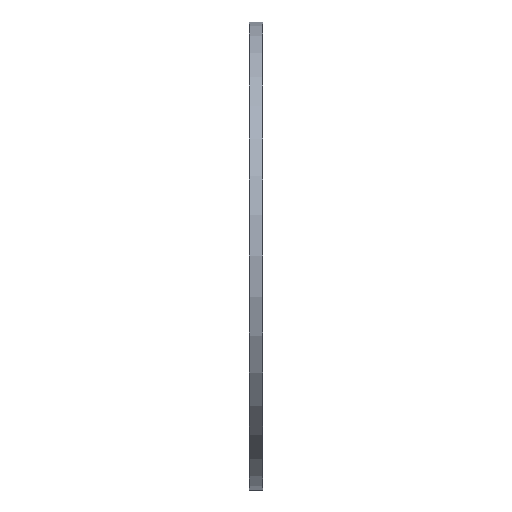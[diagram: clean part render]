
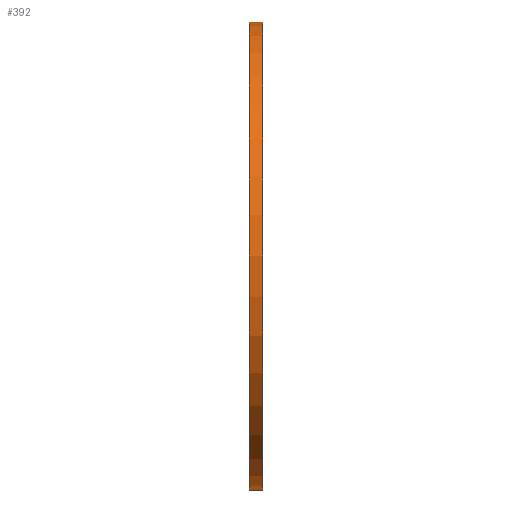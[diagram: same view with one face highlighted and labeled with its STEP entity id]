
A CAD part, left-side view. The second image highlights one B-rep face of the part: STEP entity #392.
In plain terms, the highlighted cylindrical face has radius 447.5 mm (diameter 895 mm), a partial arc.
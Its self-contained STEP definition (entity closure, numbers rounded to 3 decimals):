
#6 = ORIENTED_EDGE ( 'NONE', *, *, #488, .T. ) ;
#11 = CARTESIAN_POINT ( 'NONE',  ( 0., 25., 447.5 ) ) ;
#26 = ORIENTED_EDGE ( 'NONE', *, *, #141, .T. ) ;
#122 = CARTESIAN_POINT ( 'NONE',  ( 0., 0., 447.5 ) ) ;
#141 = EDGE_CURVE ( 'NONE', #455, #1310, #1748, .T. ) ;
#276 = CARTESIAN_POINT ( 'NONE',  ( 0., 38.545, 447.5 ) ) ;
#322 = VECTOR ( 'NONE', #1332, 1000. ) ;
#368 = DIRECTION ( 'NONE',  ( 0., 1., 0. ) ) ;
#392 = ADVANCED_FACE ( 'NONE', ( #810 ), #1418, .T. ) ;
#450 = DIRECTION ( 'NONE',  ( 0., 0., 1. ) ) ;
#455 = VERTEX_POINT ( 'NONE', #1780 ) ;
#488 = EDGE_CURVE ( 'NONE', #1310, #1440, #589, .T. ) ;
#509 = EDGE_CURVE ( 'NONE', #455, #556, #881, .T. ) ;
#556 = VERTEX_POINT ( 'NONE', #1820 ) ;
#589 = LINE ( 'NONE', #276, #322 ) ;
#725 = DIRECTION ( 'NONE',  ( 0., 1., 0. ) ) ;
#739 = DIRECTION ( 'NONE',  ( 0., 1., 0. ) ) ;
#766 = DIRECTION ( 'NONE',  ( 0., 1., 0. ) ) ;
#810 = FACE_OUTER_BOUND ( 'NONE', #932, .T. ) ;
#818 = CIRCLE ( 'NONE', #1325, 447.5 ) ;
#881 = LINE ( 'NONE', #1465, #1709 ) ;
#932 = EDGE_LOOP ( 'NONE', ( #1013, #26, #6, #1184 ) ) ;
#1013 = ORIENTED_EDGE ( 'NONE', *, *, #509, .F. ) ;
#1026 = EDGE_CURVE ( 'NONE', #556, #1440, #818, .T. ) ;
#1184 = ORIENTED_EDGE ( 'NONE', *, *, #1026, .F. ) ;
#1202 = CARTESIAN_POINT ( 'NONE',  ( 0., 0., 0. ) ) ;
#1265 = CARTESIAN_POINT ( 'NONE',  ( 0., 38.545, 0. ) ) ;
#1310 = VERTEX_POINT ( 'NONE', #122 ) ;
#1325 = AXIS2_PLACEMENT_3D ( 'NONE', #1381, #766, #450 ) ;
#1332 = DIRECTION ( 'NONE',  ( 0., 1., 0. ) ) ;
#1345 = DIRECTION ( 'NONE',  ( 0., 0., 1. ) ) ;
#1381 = CARTESIAN_POINT ( 'NONE',  ( 0., 25., 0. ) ) ;
#1418 = CYLINDRICAL_SURFACE ( 'NONE', #1546, 447.5 ) ;
#1440 = VERTEX_POINT ( 'NONE', #11 ) ;
#1465 = CARTESIAN_POINT ( 'NONE',  ( 0., 38.545, -447.5 ) ) ;
#1546 = AXIS2_PLACEMENT_3D ( 'NONE', #1265, #368, #1655 ) ;
#1655 = DIRECTION ( 'NONE',  ( 0., 0., 1. ) ) ;
#1709 = VECTOR ( 'NONE', #725, 1000. ) ;
#1748 = CIRCLE ( 'NONE', #1806, 447.5 ) ;
#1780 = CARTESIAN_POINT ( 'NONE',  ( 0., 0., -447.5 ) ) ;
#1806 = AXIS2_PLACEMENT_3D ( 'NONE', #1202, #739, #1345 ) ;
#1820 = CARTESIAN_POINT ( 'NONE',  ( 0., 25., -447.5 ) ) ;
